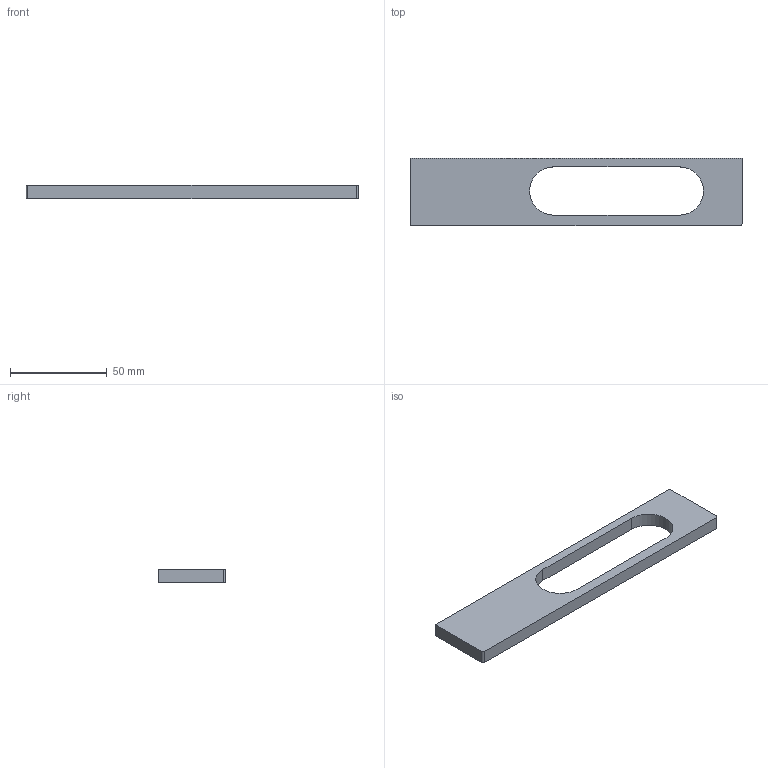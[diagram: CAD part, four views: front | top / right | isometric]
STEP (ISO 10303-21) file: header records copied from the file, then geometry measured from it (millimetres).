
FILE_DESCRIPTION( ( '' ), '1' );
FILE_NAME( 'D:/1.AUTOCAD EXPORT/Group 10/sheet_10_1/DONE/Sachin_1/115004.stp', '2013-10-29T09:42:48', ( '' ), ( '' ), ' ', ' ', ' ' );
FILE_SCHEMA( ( 'CONFIG_CONTROL_DESIGN' ) );
Length unit declared in the file: millimetre
Products named in the file (1): 1
Bounding box: 172 x 35 x 7 mm (x, y, z)
Volume: 27124.8 mm3; surface area: 12360.2 mm2
Topology: 1 solids, 1 shells, 18 faces, 42 edges, 28 vertices
Faces by surface type: plane 10, cylinder 8
Entity records: 570 total; most frequent: DIRECTION 96, CARTESIAN_POINT 89, ORIENTED_EDGE 84, EDGE_CURVE 42, AXIS2_PLACEMENT_3D 35, VERTEX_POINT 28, LINE 26, VECTOR 26
